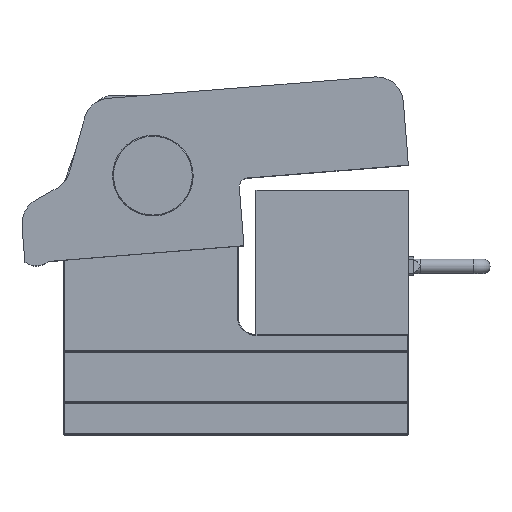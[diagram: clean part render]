
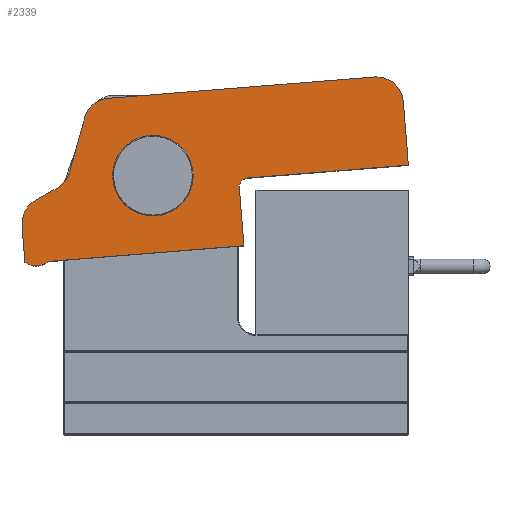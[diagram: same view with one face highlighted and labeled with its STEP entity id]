
A CAD part, top view. The second image highlights one B-rep face of the part: STEP entity #2339.
In plain terms, the highlighted planar face has unit normal (0, 0, 1).
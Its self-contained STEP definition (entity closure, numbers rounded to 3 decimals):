
#35=FACE_BOUND('',#311,.T.);
#46=PLANE('',#2535);
#163=FACE_OUTER_BOUND('',#310,.T.);
#310=EDGE_LOOP('',(#1590,#1591,#1592,#1593,#1594,#1595,#1596,#1597,#1598,
#1599,#1600,#1601,#1602,#1603));
#311=EDGE_LOOP('',(#1604));
#456=LINE('',#3513,#685);
#467=LINE('',#3535,#696);
#468=LINE('',#3539,#697);
#469=LINE('',#3541,#698);
#470=LINE('',#3544,#699);
#471=LINE('',#3545,#700);
#472=LINE('',#3547,#701);
#473=LINE('',#3551,#702);
#685=VECTOR('',#2833,10.);
#696=VECTOR('',#2846,10.);
#697=VECTOR('',#2849,10.);
#698=VECTOR('',#2850,10.);
#699=VECTOR('',#2853,10.);
#700=VECTOR('',#2854,10.);
#701=VECTOR('',#2855,10.);
#702=VECTOR('',#2858,10.);
#902=CIRCLE('',#2491,22.475);
#924=CIRCLE('',#2526,15.);
#928=CIRCLE('',#2533,15.);
#929=CIRCLE('',#2536,5.);
#930=CIRCLE('',#2537,15.);
#931=CIRCLE('',#2538,15.);
#932=CIRCLE('',#2539,10.);
#986=VERTEX_POINT('',#3413);
#1011=VERTEX_POINT('',#3482);
#1012=VERTEX_POINT('',#3484);
#1021=VERTEX_POINT('',#3503);
#1022=VERTEX_POINT('',#3505);
#1023=VERTEX_POINT('',#3509);
#1025=VERTEX_POINT('',#3512);
#1035=VERTEX_POINT('',#3534);
#1036=VERTEX_POINT('',#3536);
#1037=VERTEX_POINT('',#3538);
#1038=VERTEX_POINT('',#3540);
#1039=VERTEX_POINT('',#3542);
#1040=VERTEX_POINT('',#3546);
#1041=VERTEX_POINT('',#3548);
#1042=VERTEX_POINT('',#3550);
#1180=EDGE_CURVE('',#986,#986,#902,.T.);
#1211=EDGE_CURVE('',#1012,#1011,#924,.T.);
#1221=EDGE_CURVE('',#1022,#1021,#928,.T.);
#1224=EDGE_CURVE('',#1025,#1023,#456,.T.);
#1235=EDGE_CURVE('',#1023,#1035,#467,.T.);
#1236=EDGE_CURVE('',#1035,#1036,#929,.T.);
#1237=EDGE_CURVE('',#1036,#1037,#468,.T.);
#1238=EDGE_CURVE('',#1037,#1038,#469,.T.);
#1239=EDGE_CURVE('',#1038,#1039,#930,.T.);
#1240=EDGE_CURVE('',#1039,#1012,#470,.T.);
#1241=EDGE_CURVE('',#1011,#1022,#471,.T.);
#1242=EDGE_CURVE('',#1021,#1040,#472,.T.);
#1243=EDGE_CURVE('',#1040,#1041,#931,.T.);
#1244=EDGE_CURVE('',#1041,#1042,#473,.T.);
#1245=EDGE_CURVE('',#1042,#1025,#932,.T.);
#1590=ORIENTED_EDGE('',*,*,#1224,.T.);
#1591=ORIENTED_EDGE('',*,*,#1235,.T.);
#1592=ORIENTED_EDGE('',*,*,#1236,.T.);
#1593=ORIENTED_EDGE('',*,*,#1237,.T.);
#1594=ORIENTED_EDGE('',*,*,#1238,.T.);
#1595=ORIENTED_EDGE('',*,*,#1239,.T.);
#1596=ORIENTED_EDGE('',*,*,#1240,.T.);
#1597=ORIENTED_EDGE('',*,*,#1211,.T.);
#1598=ORIENTED_EDGE('',*,*,#1241,.T.);
#1599=ORIENTED_EDGE('',*,*,#1221,.T.);
#1600=ORIENTED_EDGE('',*,*,#1242,.T.);
#1601=ORIENTED_EDGE('',*,*,#1243,.T.);
#1602=ORIENTED_EDGE('',*,*,#1244,.T.);
#1603=ORIENTED_EDGE('',*,*,#1245,.T.);
#1604=ORIENTED_EDGE('',*,*,#1180,.T.);
#2339=ADVANCED_FACE('',(#163,#35),#46,.T.);
#2491=AXIS2_PLACEMENT_3D('',#3415,#2730,#2731);
#2526=AXIS2_PLACEMENT_3D('',#3485,#2809,#2810);
#2533=AXIS2_PLACEMENT_3D('',#3506,#2827,#2828);
#2535=AXIS2_PLACEMENT_3D('',#3533,#2844,#2845);
#2536=AXIS2_PLACEMENT_3D('',#3537,#2847,#2848);
#2537=AXIS2_PLACEMENT_3D('',#3543,#2851,#2852);
#2538=AXIS2_PLACEMENT_3D('',#3549,#2856,#2857);
#2539=AXIS2_PLACEMENT_3D('',#3552,#2859,#2860);
#2730=DIRECTION('center_axis',(0.,0.,
-1.));
#2731=DIRECTION('ref_axis',(0.869,-0.495,0.));
#2809=DIRECTION('center_axis',(0.,0.,
1.));
#2810=DIRECTION('ref_axis',(-0.637,0.771,0.));
#2827=DIRECTION('center_axis',(0.,0.,
-1.));
#2828=DIRECTION('ref_axis',(0.789,-0.615,0.));
#2833=DIRECTION('',(0.997,0.08,0.));
#2844=DIRECTION('center_axis',(0.,0.,
1.));
#2845=DIRECTION('ref_axis',(0.08,-0.997,0.));
#2846=DIRECTION('',(-0.08,0.997,0.));
#2847=DIRECTION('center_axis',(0.,0.,
-1.));
#2848=DIRECTION('ref_axis',(-0.08,0.997,0.));
#2849=DIRECTION('',(0.997,0.08,0.));
#2850=DIRECTION('',(-0.08,0.997,0.));
#2851=DIRECTION('center_axis',(0.,0.,
1.));
#2852=DIRECTION('ref_axis',(0.648,0.761,0.));
#2853=DIRECTION('',(-0.997,-0.08,0.));
#2854=DIRECTION('',(-0.266,-0.964,0.));
#2855=DIRECTION('',(-0.87,-0.494,0.));
#2856=DIRECTION('center_axis',(0.,0.,
1.));
#2857=DIRECTION('ref_axis',(-0.884,0.468,0.));
#2858=DIRECTION('',(0.08,-0.997,0.));
#2859=DIRECTION('center_axis',(0.,0.,
1.));
#2860=DIRECTION('ref_axis',(-0.641,-0.768,0.));
#3413=CARTESIAN_POINT('',(-65.782,60.869,55.));
#3415=CARTESIAN_POINT('Origin',(-46.25,49.75,55.));
#3482=CARTESIAN_POINT('',(-84.358,81.938,55.));
#3484=CARTESIAN_POINT('',(-71.096,92.902,55.));
#3485=CARTESIAN_POINT('Origin',(-69.898,77.95,55.));
#3503=CARTESIAN_POINT('',(-99.699,42.83,55.));
#3505=CARTESIAN_POINT('',(-92.644,51.888,55.));
#3506=CARTESIAN_POINT('Origin',(-107.105,55.875,55.));
#3509=CARTESIAN_POINT('',(4.535,10.684,55.));
#3512=CARTESIAN_POINT('',(-104.615,1.933,55.));
#3513=CARTESIAN_POINT('',(-2.692,10.104,55.));
#3533=CARTESIAN_POINT('Origin',(95.794,61.139,55.));
#3534=CARTESIAN_POINT('',(1.937,43.08,55.));
#3535=CARTESIAN_POINT('',(1.518,48.313,55.));
#3536=CARTESIAN_POINT('',(6.522,48.463,55.));
#3537=CARTESIAN_POINT('Origin',(6.921,43.479,55.));
#3538=CARTESIAN_POINT('',(96.234,55.656,55.));
#3539=CARTESIAN_POINT('',(96.234,55.656,55.));
#3540=CARTESIAN_POINT('',(93.397,91.043,55.));
#3541=CARTESIAN_POINT('',(95.794,61.139,55.));
#3542=CARTESIAN_POINT('',(77.246,104.796,55.));
#3543=CARTESIAN_POINT('Origin',(78.445,89.844,55.));
#3544=CARTESIAN_POINT('',(37.997,101.649,55.));
#3545=CARTESIAN_POINT('',(-79.262,100.419,55.));
#3546=CARTESIAN_POINT('',(-111.701,36.017,55.));
#3547=CARTESIAN_POINT('',(-19.145,88.562,55.));
#3548=CARTESIAN_POINT('',(-119.248,21.773,55.));
#3549=CARTESIAN_POINT('Origin',(-104.296,22.972,55.));
#3550=CARTESIAN_POINT('',(-117.642,1.749,55.));
#3551=CARTESIAN_POINT('',(-121.01,43.756,55.));
#3552=CARTESIAN_POINT('Origin',(-111.235,9.427,55.));
